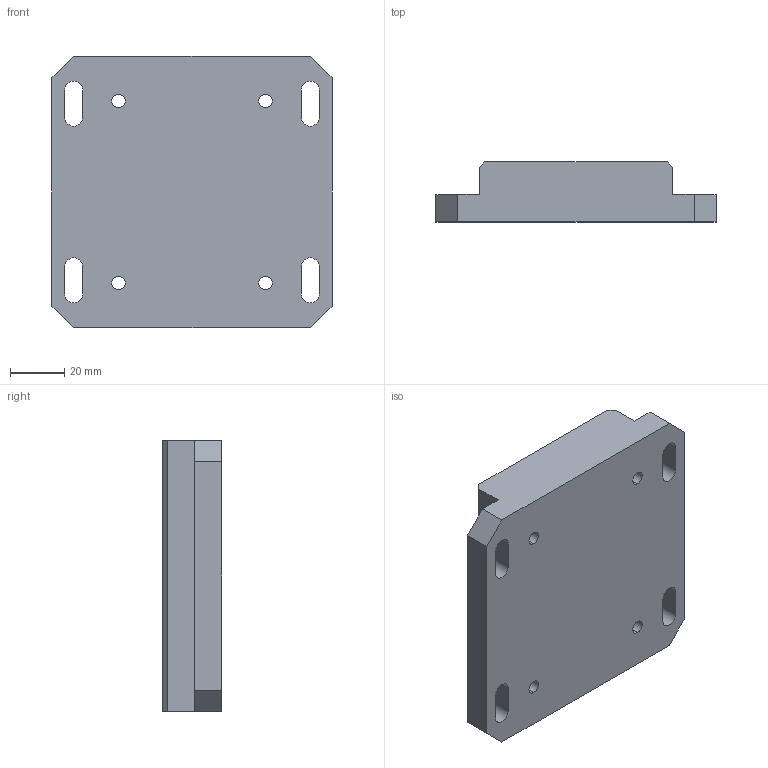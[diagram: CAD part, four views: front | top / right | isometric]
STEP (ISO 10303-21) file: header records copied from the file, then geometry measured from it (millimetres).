
FILE_DESCRIPTION (( 'STEP AP214' ), '1' );
FILE_NAME ('GZ29.02_V1气缸垫块.STEP', '2021-05-06T07:55:30', ( '微软中国' ), ( 'Microsoft' ), 'SwSTEP 2.0', 'SolidWorks 2017', '' );
FILE_SCHEMA (( 'AUTOMOTIVE_DESIGN' ));
Length unit declared in the file: millimetre
Products named in the file (1): GZ29.02_V1气缸垫块
Bounding box: 103 x 22 x 100 mm (x, y, z)
Volume: 180840.5 mm3; surface area: 30113.4 mm2
Topology: 1 solids, 1 shells, 44 faces, 126 edges, 84 vertices
Faces by surface type: plane 24, cylinder 20
Entity records: 1604 total; most frequent: DIRECTION 256, CARTESIAN_POINT 255, ORIENTED_EDGE 252, EDGE_CURVE 126, LINE 86, VECTOR 86, AXIS2_PLACEMENT_3D 85, VERTEX_POINT 84
